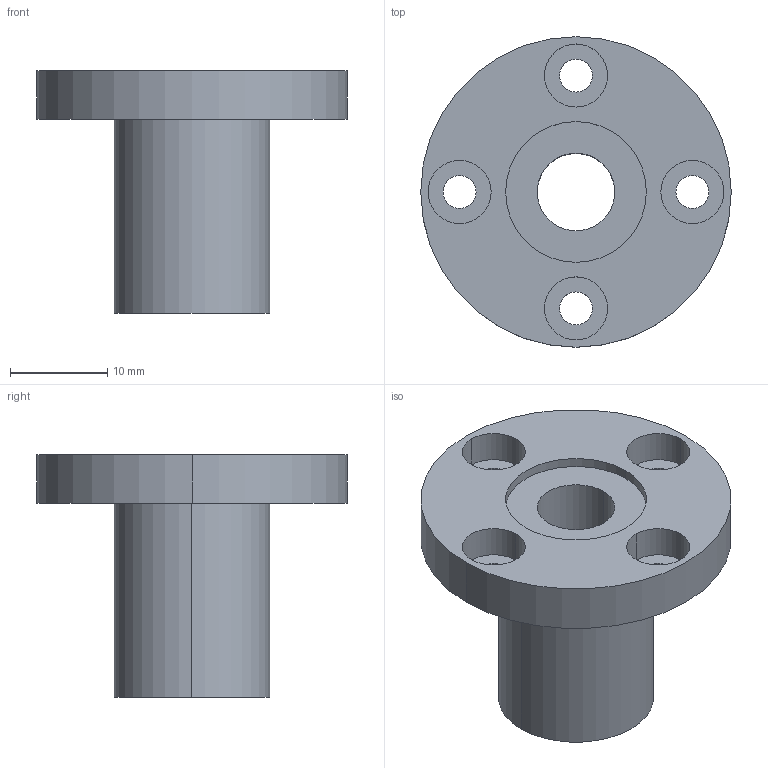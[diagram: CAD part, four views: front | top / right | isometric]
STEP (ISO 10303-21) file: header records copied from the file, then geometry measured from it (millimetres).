
FILE_DESCRIPTION((''),'2;1');
FILE_NAME('C:\Documents and Settings\ｿﾀﾀ蠑ｷ1\ｹﾙﾅﾁ ﾈｭｸ饅\ｺﾎﾇｰﾆﾄﾀﾏ\ﾁｦﾇｰ\LMEF__UU\LMEF8UU.stp','2005-06-15T10:49:28',('ｿﾀﾀ蠑ｷ1'),(''),'Autodesk Inventor 9','Autodesk Inventor 9','');
FILE_SCHEMA(('AUTOMOTIVE_DESIGN { 1 0 10303 214 1 1 1 1 }'));
Length unit declared in the file: millimetre
Products named in the file (1): LMEF__(L)
Bounding box: 32 x 32 x 25 mm (x, y, z)
Volume: 6056.4 mm3; surface area: 3954.6 mm2
Topology: 1 solids, 1 shells, 35 faces, 78 edges, 52 vertices
Faces by surface type: bspline 20, cylinder 10, plane 5
Entity records: 1255 total; most frequent: CARTESIAN_POINT 450, DIRECTION 162, ORIENTED_EDGE 156, EDGE_CURVE 78, AXIS2_PLACEMENT_3D 68, VERTEX_POINT 52, CIRCLE 52, EDGE_LOOP 52
